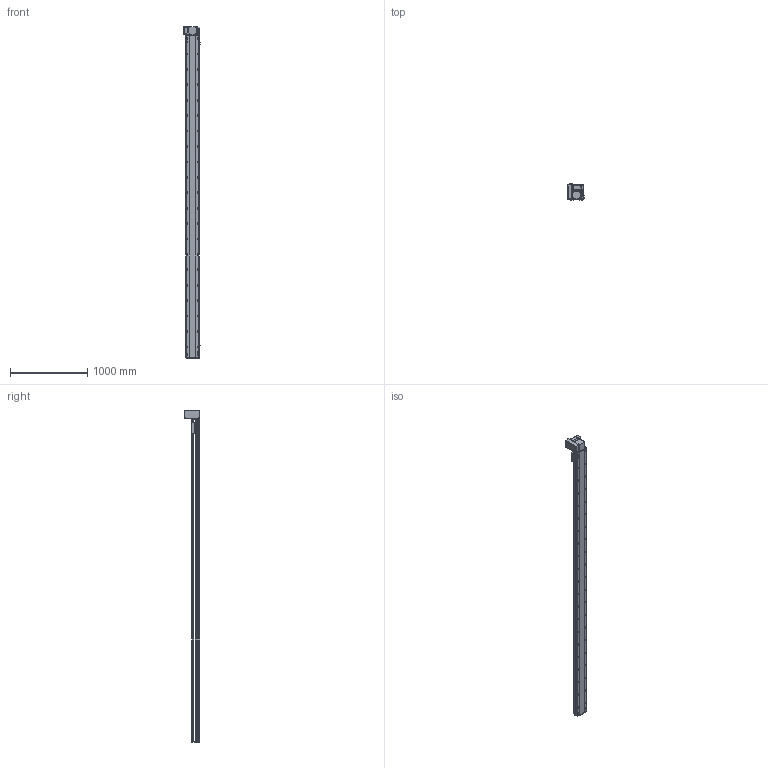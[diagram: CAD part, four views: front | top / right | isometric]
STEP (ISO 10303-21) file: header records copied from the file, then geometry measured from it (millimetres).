
FILE_DESCRIPTION (( 'STEP AP214' ), '1' );
FILE_NAME ('RTB17S-XX-3900-LW-M75-C4.STEP', '2025-12-12T01:25:20', ( '' ), ( '' ), 'SwSTEP 2.0', 'SolidWorks 2018', '' );
FILE_SCHEMA (( 'AUTOMOTIVE_DESIGN' ));
Length unit declared in the file: millimetre
Products named in the file (15): RTB17S-賑釱^RTB17S-XX-XX-LW-M75-C4; RTB17S-L-014-T20-P75--々湍釱^RTB17S-LW-々湍釱蚾饜-750W_RTB17S-XX-XX-LW-M75-C4; RTB17S-L-004-賑釱^RTB17S-賑釱_RTB17S-XX-XX-LW-M75-C4; RTB17S-XX-3900-LW-M75-C4; RTB22S-GY-005P^RTB17S-LW-々湍釱蚾饜-750W_RTB17S-XX-XX-LW-M75-C4; RTB22S-GY-018P^RTB17S-LW-々湍釱蚾饜-750W_RTB17S-XX-XX-LW-M75-C4; RTH13-BL-012覜茼え俋离^RTB17S-賑釱_RTB17S-XX-XX-LW-M75-C4; RTB22S-GY-017P^RTB17S-LW-々湍釱蚾饜-750W_RTB17S-XX-XX-LW-M75-C4; EE672^RTB17S-XX-XX-LW-M75-C4; RTB17-R-011菁釱^RTB17S-XX-XX-LW-M75-C4; RTB17S-LW-々湍釱蚾饜-750W^RTB17S-XX-XX-LW-M75-C4; RTB17S-L-001-耜醱啣^RTB17S-XX-XX-LW-M75-C4; RTB17S-L-007奻裔^RTB17S-XX-XX-LW-M75-C4; 750W萇儂^RTB17S-XX-XX-LW-M75-C4; RTB22S-GY-008-M75--萇儂啣^RTB17S-LW-々湍釱蚾饜-750W_RTB17S-XX-XX-LW-M75-C4
Assembly tree (17 placements, depth 3):
  RTB17S-XX-3900-LW-M75-C4
    RTB17-R-011菁釱^RTB17S-XX-XX-LW-M75-C4
    EE672^RTB17S-XX-XX-LW-M75-C4  x3
    RTB17S-L-001-耜醱啣^RTB17S-XX-XX-LW-M75-C4
    RTB17S-賑釱^RTB17S-XX-XX-LW-M75-C4
      RTB17S-L-004-賑釱^RTB17S-賑釱_RTB17S-XX-XX-LW-M75-C4
      RTH13-BL-012覜茼え俋离^RTB17S-賑釱_RTB17S-XX-XX-LW-M75-C4
    RTB17S-L-007奻裔^RTB17S-XX-XX-LW-M75-C4
    750W萇儂^RTB17S-XX-XX-LW-M75-C4
    RTB17S-LW-々湍釱蚾饜-750W^RTB17S-XX-XX-LW-M75-C4
      RTB17S-L-014-T20-P75--々湍釱^RTB17S-LW-々湍釱蚾饜-750W_RTB17S-XX-XX-LW-M75-C4
      RTB22S-GY-005P^RTB17S-LW-々湍釱蚾饜-750W_RTB17S-XX-XX-LW-M75-C4
      RTB22S-GY-017P^RTB17S-LW-々湍釱蚾饜-750W_RTB17S-XX-XX-LW-M75-C4  x2
      RTB22S-GY-008-M75--萇儂啣^RTB17S-LW-々湍釱蚾饜-750W_RTB17S-XX-XX-LW-M75-C4
      RTB22S-GY-018P^RTB17S-LW-々湍釱蚾饜-750W_RTB17S-XX-XX-LW-M75-C4
Bounding box: 210.4 x 201.5 x 4307.5 mm (x, y, z)
Volume: 30326878.6 mm3; surface area: 5633973.1 mm2
Topology: 17 solids, 17 shells, 2329 faces, 6592 edges, 4274 vertices
Faces by surface type: plane 1000, cylinder 913, bspline 294, cone 110, sphere 8, torus 4
Entity records: 69622 total; most frequent: CARTESIAN_POINT 20856, ORIENTED_EDGE 10028, DIRECTION 9212, EDGE_CURVE 5014, AXIS2_PLACEMENT_3D 3294, VERTEX_POINT 3278, LINE 2624, VECTOR 2624
